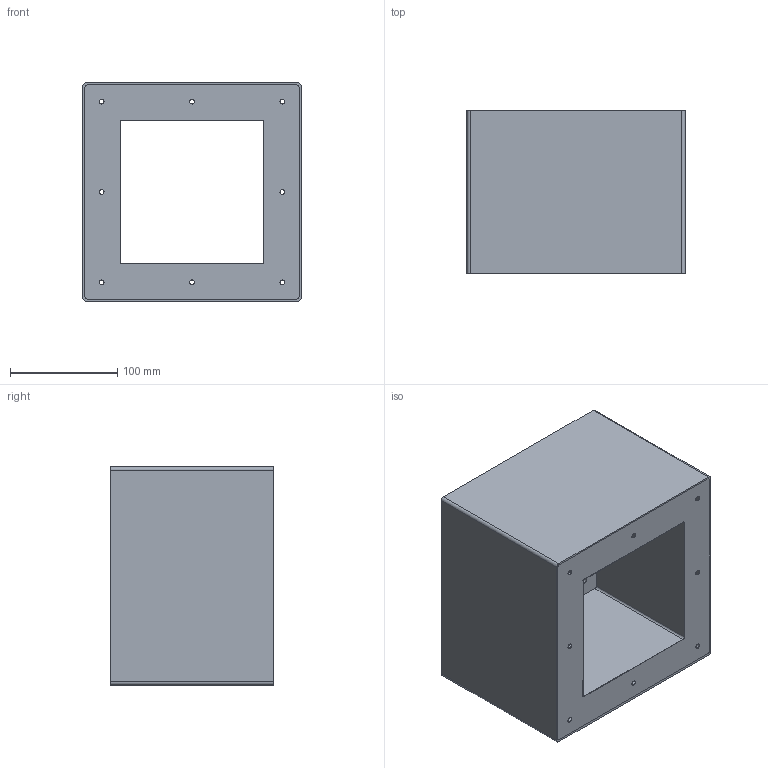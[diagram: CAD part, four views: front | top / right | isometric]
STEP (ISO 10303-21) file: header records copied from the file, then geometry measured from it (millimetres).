
FILE_DESCRIPTION((''),'1');
FILE_NAME('2','2001-04-17T',('jlue'),(''),'PRO/ENGINEER BY PARAMETRIC TECHNOLOGY CORPORATION, 9846','PRO/ENGINEER BY PARAMETRIC TECHNOLOGY CORPORATION, 9846','');
FILE_SCHEMA(('CONFIG_CONTROL_DESIGN'));
Length unit declared in the file: inch
Products named in the file (1): 2
Bounding box: 203.2 x 152.4 x 203.2 mm (x, y, z)
Surface area: 334038.8 mm2 (no closed solid volume)
Topology: 0 solids, 0 shells, 68 faces, 392 edges, 400 vertices
Faces by surface type: cylinder 48, plane 20
Entity records: 2038 total; most frequent: DIRECTION 432, COMPOSITE_CURVE_SEGMENT 384, CARTESIAN_POINT 268, TRIMMED_CURVE 200, AXIS2_PLACEMENT_3D 164, VECTOR 104, LINE 104, CIRCLE 96
